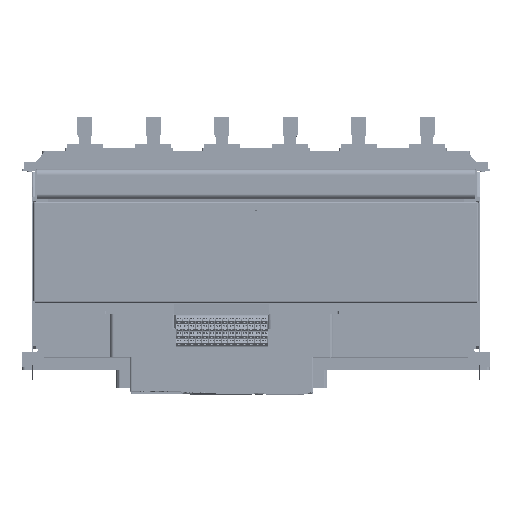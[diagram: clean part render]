
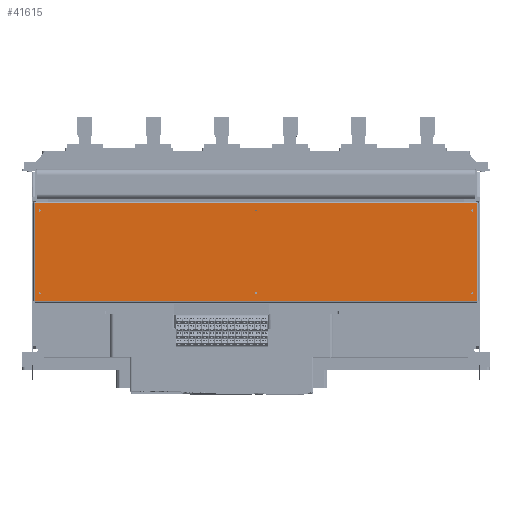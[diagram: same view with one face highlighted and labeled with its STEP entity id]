
A CAD part, top view. The second image highlights one B-rep face of the part: STEP entity #41615.
In plain terms, the highlighted planar face has unit normal (0, 0, 1) as drawn and (0, 1, 0) by its records, which use the part's own axes.
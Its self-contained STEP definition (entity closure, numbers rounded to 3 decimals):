
#36739=DIRECTION('',(-1.,0.,0.));
#36740=VECTOR('',#36739,742.);
#36741=CARTESIAN_POINT('',(852.,-9.,157.));
#36742=LINE('',#36741,#36740);
#36753=CARTESIAN_POINT('',(844.5,-9.,145.));
#36754=DIRECTION('',(0.,-1.,0.));
#36755=DIRECTION('',(0.,0.,-1.));
#36756=AXIS2_PLACEMENT_3D('',#36753,#36754,#36755);
#36761=CARTESIAN_POINT('',(844.5,-9.,145.));
#36762=DIRECTION('',(0.,-1.,0.));
#36763=DIRECTION('',(0.,0.,1.));
#36764=AXIS2_PLACEMENT_3D('',#36761,#36762,#36763);
#36769=CARTESIAN_POINT('',(844.5,-9.,6.));
#36770=DIRECTION('',(0.,-1.,0.));
#36771=DIRECTION('',(0.,0.,-1.));
#36772=AXIS2_PLACEMENT_3D('',#36769,#36770,#36771);
#36777=CARTESIAN_POINT('',(844.5,-9.,6.));
#36778=DIRECTION('',(0.,-1.,0.));
#36779=DIRECTION('',(0.,0.,1.));
#36780=AXIS2_PLACEMENT_3D('',#36777,#36778,#36779);
#36785=CARTESIAN_POINT('',(481.,-9.,145.));
#36786=DIRECTION('',(0.,-1.,0.));
#36787=DIRECTION('',(0.,0.,-1.));
#36788=AXIS2_PLACEMENT_3D('',#36785,#36786,#36787);
#36793=CARTESIAN_POINT('',(481.,-9.,145.));
#36794=DIRECTION('',(0.,-1.,0.));
#36795=DIRECTION('',(0.,0.,1.));
#36796=AXIS2_PLACEMENT_3D('',#36793,#36794,#36795);
#36801=CARTESIAN_POINT('',(481.,-9.,6.));
#36802=DIRECTION('',(0.,-1.,0.));
#36803=DIRECTION('',(0.,0.,-1.));
#36804=AXIS2_PLACEMENT_3D('',#36801,#36802,#36803);
#36809=CARTESIAN_POINT('',(481.,-9.,6.));
#36810=DIRECTION('',(0.,-1.,0.));
#36811=DIRECTION('',(0.,0.,1.));
#36812=AXIS2_PLACEMENT_3D('',#36809,#36810,#36811);
#36817=CARTESIAN_POINT('',(117.5,-9.,145.));
#36818=DIRECTION('',(0.,-1.,0.));
#36819=DIRECTION('',(0.,0.,-1.));
#36820=AXIS2_PLACEMENT_3D('',#36817,#36818,#36819);
#36825=CARTESIAN_POINT('',(117.5,-9.,145.));
#36826=DIRECTION('',(0.,-1.,0.));
#36827=DIRECTION('',(0.,0.,1.));
#36828=AXIS2_PLACEMENT_3D('',#36825,#36826,#36827);
#36833=CARTESIAN_POINT('',(117.5,-9.,6.));
#36834=DIRECTION('',(0.,-1.,0.));
#36835=DIRECTION('',(0.,0.,-1.));
#36836=AXIS2_PLACEMENT_3D('',#36833,#36834,#36835);
#36841=CARTESIAN_POINT('',(117.5,-9.,6.));
#36842=DIRECTION('',(0.,-1.,0.));
#36843=DIRECTION('',(0.,0.,1.));
#36844=AXIS2_PLACEMENT_3D('',#36841,#36842,#36843);
#37451=DIRECTION('',(0.,0.,1.));
#37452=VECTOR('',#37451,164.);
#37453=CARTESIAN_POINT('',(852.,-9.,-7.));
#37454=LINE('',#37453,#37452);
#37625=DIRECTION('',(1.,0.,0.));
#37626=VECTOR('',#37625,742.);
#37627=CARTESIAN_POINT('',(110.,-9.,-7.));
#37628=LINE('',#37627,#37626);
#38051=DIRECTION('',(0.,0.,-1.));
#38052=VECTOR('',#38051,164.);
#38053=CARTESIAN_POINT('',(110.,-9.,157.));
#38054=LINE('',#38053,#38052);
#40670=CARTESIAN_POINT('',(852.,-9.,157.));
#40671=CARTESIAN_POINT('',(110.,-9.,157.));
#40672=VERTEX_POINT('',#40670);
#40673=VERTEX_POINT('',#40671);
#40674=CARTESIAN_POINT('',(852.,-9.,-7.));
#40675=VERTEX_POINT('',#40674);
#40676=CARTESIAN_POINT('',(110.,-9.,-7.));
#40677=VERTEX_POINT('',#40676);
#41004=CARTESIAN_POINT('',(117.5,-9.,4.25));
#41006=VERTEX_POINT('',#41004);
#41008=CARTESIAN_POINT('',(117.5,-9.,7.75));
#41010=VERTEX_POINT('',#41008);
#41012=CARTESIAN_POINT('',(117.5,-9.,143.25));
#41014=VERTEX_POINT('',#41012);
#41016=CARTESIAN_POINT('',(117.5,-9.,146.75));
#41018=VERTEX_POINT('',#41016);
#41020=CARTESIAN_POINT('',(481.,-9.,4.25));
#41022=VERTEX_POINT('',#41020);
#41024=CARTESIAN_POINT('',(481.,-9.,7.75));
#41026=VERTEX_POINT('',#41024);
#41028=CARTESIAN_POINT('',(481.,-9.,143.25));
#41030=VERTEX_POINT('',#41028);
#41032=CARTESIAN_POINT('',(481.,-9.,146.75));
#41034=VERTEX_POINT('',#41032);
#41036=CARTESIAN_POINT('',(844.5,-9.,4.25));
#41038=VERTEX_POINT('',#41036);
#41040=CARTESIAN_POINT('',(844.5,-9.,7.75));
#41042=VERTEX_POINT('',#41040);
#41044=CARTESIAN_POINT('',(844.5,-9.,143.25));
#41046=VERTEX_POINT('',#41044);
#41048=CARTESIAN_POINT('',(844.5,-9.,146.75));
#41050=VERTEX_POINT('',#41048);
#41565=CARTESIAN_POINT('',(426.5,-9.,42.5));
#41566=DIRECTION('',(0.,1.,0.));
#41567=DIRECTION('',(-1.,0.,0.));
#41568=AXIS2_PLACEMENT_3D('',#41565,#41566,#41567);
#41569=PLANE('',#41568);
#41570=ORIENTED_EDGE('',*,*,#41548,.T.);
#41572=ORIENTED_EDGE('',*,*,#41571,.T.);
#41574=ORIENTED_EDGE('',*,*,#41573,.T.);
#41576=ORIENTED_EDGE('',*,*,#41575,.T.);
#41577=EDGE_LOOP('',(#41570,#41572,#41574,#41576));
#41578=FACE_OUTER_BOUND('',#41577,.F.);
#41580=ORIENTED_EDGE('',*,*,#41579,.F.);
#41582=ORIENTED_EDGE('',*,*,#41581,.F.);
#41583=EDGE_LOOP('',(#41580,#41582));
#41584=FACE_BOUND('',#41583,.F.);
#41586=ORIENTED_EDGE('',*,*,#41585,.F.);
#41588=ORIENTED_EDGE('',*,*,#41587,.F.);
#41589=EDGE_LOOP('',(#41586,#41588));
#41590=FACE_BOUND('',#41589,.F.);
#41592=ORIENTED_EDGE('',*,*,#41591,.F.);
#41594=ORIENTED_EDGE('',*,*,#41593,.F.);
#41595=EDGE_LOOP('',(#41592,#41594));
#41596=FACE_BOUND('',#41595,.F.);
#41598=ORIENTED_EDGE('',*,*,#41597,.F.);
#41600=ORIENTED_EDGE('',*,*,#41599,.F.);
#41601=EDGE_LOOP('',(#41598,#41600));
#41602=FACE_BOUND('',#41601,.F.);
#41604=ORIENTED_EDGE('',*,*,#41603,.F.);
#41606=ORIENTED_EDGE('',*,*,#41605,.F.);
#41607=EDGE_LOOP('',(#41604,#41606));
#41608=FACE_BOUND('',#41607,.F.);
#41610=ORIENTED_EDGE('',*,*,#41609,.F.);
#41612=ORIENTED_EDGE('',*,*,#41611,.F.);
#41613=EDGE_LOOP('',(#41610,#41612));
#41614=FACE_BOUND('',#41613,.F.);
#41615=ADVANCED_FACE('',(#41578,#41584,#41590,#41596,#41602,#41608,#41614),
#41569,.T.);
#36757=CIRCLE('',#36756,1.75);
#36765=CIRCLE('',#36764,1.75);
#36773=CIRCLE('',#36772,1.75);
#36781=CIRCLE('',#36780,1.75);
#36789=CIRCLE('',#36788,1.75);
#36797=CIRCLE('',#36796,1.75);
#36805=CIRCLE('',#36804,1.75);
#36813=CIRCLE('',#36812,1.75);
#36821=CIRCLE('',#36820,1.75);
#36829=CIRCLE('',#36828,1.75);
#36837=CIRCLE('',#36836,1.75);
#36845=CIRCLE('',#36844,1.75);
#41548=EDGE_CURVE('',#40672,#40673,#36742,.T.);
#41571=EDGE_CURVE('',#40673,#40677,#38054,.T.);
#41573=EDGE_CURVE('',#40677,#40675,#37628,.T.);
#41575=EDGE_CURVE('',#40675,#40672,#37454,.T.);
#41579=EDGE_CURVE('',#41038,#41042,#36773,.T.);
#41581=EDGE_CURVE('',#41042,#41038,#36781,.T.);
#41585=EDGE_CURVE('',#41030,#41034,#36789,.T.);
#41587=EDGE_CURVE('',#41034,#41030,#36797,.T.);
#41591=EDGE_CURVE('',#41022,#41026,#36805,.T.);
#41593=EDGE_CURVE('',#41026,#41022,#36813,.T.);
#41597=EDGE_CURVE('',#41014,#41018,#36821,.T.);
#41599=EDGE_CURVE('',#41018,#41014,#36829,.T.);
#41603=EDGE_CURVE('',#41006,#41010,#36837,.T.);
#41605=EDGE_CURVE('',#41010,#41006,#36845,.T.);
#41609=EDGE_CURVE('',#41046,#41050,#36757,.T.);
#41611=EDGE_CURVE('',#41050,#41046,#36765,.T.);
